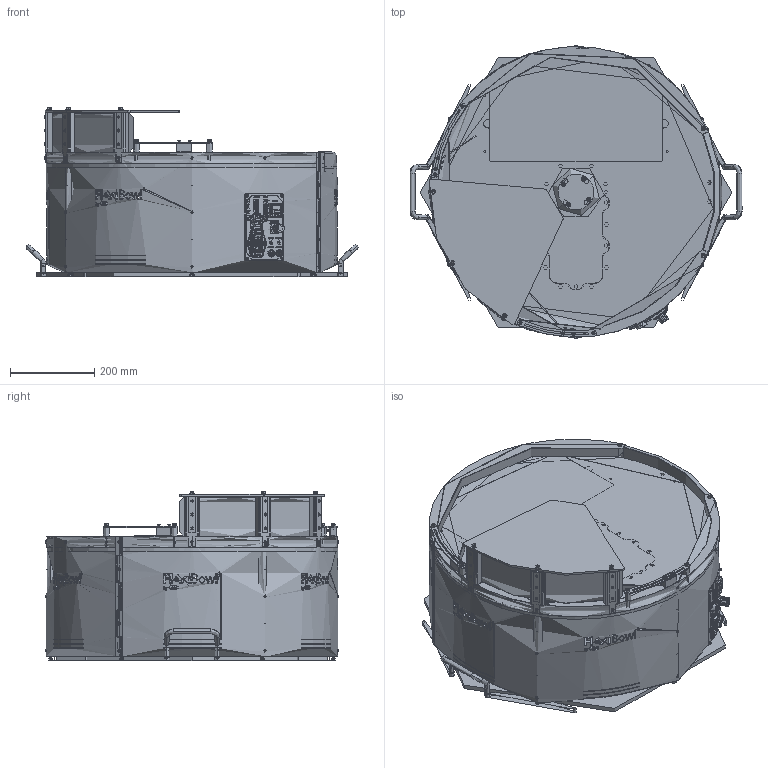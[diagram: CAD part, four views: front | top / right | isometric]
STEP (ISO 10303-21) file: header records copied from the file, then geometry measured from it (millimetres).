
FILE_DESCRIPTION (( 'STEP AP214' ), '1' );
FILE_NAME ('FB650C Quick emptying.STEP', '2021-09-09T13:35:56', ( '' ), ( '' ), 'SwSTEP 2.0', 'SolidWorks 2020', '' );
FILE_SCHEMA (( 'AUTOMOTIVE_DESIGN' ));
Length unit declared in the file: millimetre
Products named in the file (74): Copia di PD000709^FB650C Quick emptying; CM000686_001^Copia di CM000686_FB650C Quick emptying; CM000008_002^Copia di CM000008_FB650C Quick emptying; Copia di PD001120^FB650C Quick emptying; Copia di CM000051^FB650C Quick emptying; Copia di PD001102^FB650C Quick emptying; Copia di CM000642^FB650C Quick emptying; Copia di CE000007^FB650C Quick emptying; PD002296; Copia di CM000086^FB650C Quick emptying; Copia di PD001360_FB650^FB650C Quick emptying; CM000008_003^Copia di CM000008_FB650C Quick emptying; PD001651; Copia (2) di ^Copia di CE000326_FB650C Quick emptying; Copia (2) di ^Copia di CE000302_FB650C Quick emptying; PD001742; Copia di CM000001^FB650C Quick emptying; Copia di PD001736^FB650C Quick emptying; CM000179; Copia di CM000170^FB650C Quick emptying; Copia di PD001103^FB650C Quick emptying; Copia (4) di ^Copia di CE000302_FB650C Quick emptying; Copia di CM000008^FB650C Quick emptying; Copia di CM000478^FB650C Quick emptying; Copia di CM000166^FB650C Quick emptying; CM000686_002^Copia di CM000686_FB650C Quick emptying; Copia di PD001122^FB650C Quick emptying; Copia di CE000005^FB650C Quick emptying; Copia di CM000032^FB650C Quick emptying; Copia di CE000326^FB650C Quick emptying; Copia di CM000025^FB650C Quick emptying; CM000008_004^Copia di CM000008_FB650C Quick emptying; CM000212; Copia di PD001585^FB650C Quick emptying; Copia (2) di ^Copia di CE000327_FB650C Quick emptying; Copia di PD000043^FB650C Quick emptying; CM000037; Copia di CM000027^FB650C Quick emptying; Copia di PD001654^FB650C Quick emptying; CM000008_005^Copia di CM000008_FB650C Quick emptying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
Assembly tree (211 placements, depth 3):
  FB650C Quick emptying
    Copia di CM000015^FB650C Quick emptying  x2
      CM000015_001^Copia di CM000015_FB650C Quick emptying
      CM000015_002^Copia di CM000015_FB650C Quick emptying
    Copia di CM000008^FB650C Quick emptying
      CM000008_001^Copia di CM000008_FB650C Quick emptying
      CM000008_003^Copia di CM000008_FB650C Quick emptying  x2
      CM000008_002^Copia di CM000008_FB650C Quick emptying
      CM000008_004^Copia di CM000008_FB650C Quick emptying
      CM000008_005^Copia di CM000008_FB650C Quick emptying
    Copia di CE000302^FB650C Quick emptying
      Copia (2) di ^Copia di CE000302_FB650C Quick emptying
      Copia (3) di ^Copia di CE000302_FB650C Quick emptying
      Copia (4) di ^Copia di CE000302_FB650C Quick emptying
      Copia (5) di ^Copia di CE000302_FB650C Quick emptying
    Copia di CM000686^FB650C Quick emptying
      CM000686_001^Copia di CM000686_FB650C Quick emptying
      CM000686_002^Copia di CM000686_FB650C Quick emptying
    Copia di CE000327^FB650C Quick emptying
      Copia (2) di ^Copia di CE000327_FB650C Quick emptying
    Copia di CE000326^FB650C Quick emptying
      Copia (2) di ^Copia di CE000326_FB650C Quick emptying
    Copia di CM000032^FB650C Quick emptying  x4
    Copia di CM000048(2)^FB650C Quick emptying  x27
    Copia di CM000031^FB650C Quick emptying  x9
    Copia di CM000050^FB650C Quick emptying  x3
    Copia di CM000170^FB650C Quick emptying  x6
    Copia di CM000166^FB650C Quick emptying  x8
    Copia di CM000642^FB650C Quick emptying  x4
    Copia di CM000035^FB650C Quick emptying  x4
    Copia di CM000027^FB650C Quick emptying  x4
    Copia di CM000478^FB650C Quick emptying  x9
    Copia di CM000091^FB650C Quick emptying  x2
    Copia di CM000086^FB650C Quick emptying  x15
    Copia di CM000051^FB650C Quick emptying  x4
    Copia di CM000025^FB650C Quick emptying  x4
    Copia di CM000043^FB650C Quick emptying  x2
    Copia di CM000026^FB650C Quick emptying  x10
    Copia di CM000024^FB650C Quick emptying  x10
    Copia di CM000006^FB650C Quick emptying  x4
    Copia di PD001096^FB650C Quick emptying
    Copia di CM000001^FB650C Quick emptying  x2
    Copia di PD001440^FB650C Quick emptying  x6
    Copia di PD001736^FB650C Quick emptying  x2
    Copia di PD001654^FB650C Quick emptying
    Copia di PD001356^FB650C Quick emptying
    Copia di PD000709^FB650C Quick emptying
    Copia di PD000032^FB650C Quick emptying
    Copia di PD001102^FB650C Quick emptying
    Copia di PD001103^FB650C Quick emptying
    Copia di PD001585^FB650C Quick emptying  x3
    Copia di PD001583^FB650C Quick emptying  x3
    Copia di PD001061^FB650C Quick emptying
    Copia di PD000043^FB650C Quick emptying  x4
    Copia di PD001121^FB650C Quick emptying  x2
    Copia di PD001119^FB650C Quick emptying  x2
    Copia di PD001122^FB650C Quick emptying
    Copia di PD001120^FB650C Quick emptying
    Copia di PD001360_FB650^FB650C Quick emptying
    Copia di CE000007^FB650C Quick emptying
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Bounding box: 787.87 x 696.4 x 402.5 mm (x, y, z)
Topology: 215 solids, 228 shells, 10315 faces, 26439 edges, 16839 vertices
Faces by surface type: plane 5187, cylinder 2298, cone 1364, bspline 843, torus 567, sphere 56
Entity records: 285468 total; most frequent: CARTESIAN_POINT 99898, ORIENTED_EDGE 37577, DIRECTION 32595, EDGE_CURVE 18789, VERTEX_POINT 12518, AXIS2_PLACEMENT_3D 11163, VECTOR 10269, LINE 10269
